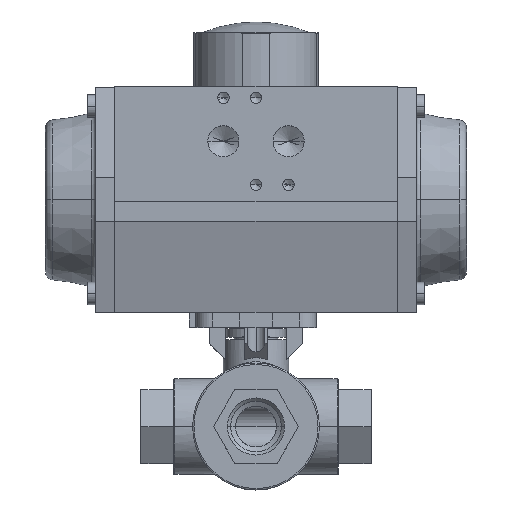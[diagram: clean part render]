
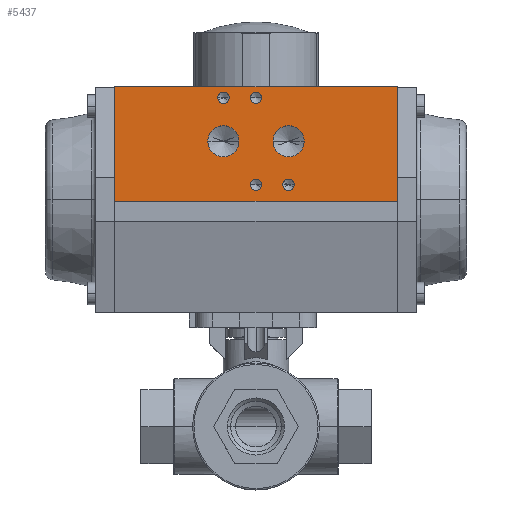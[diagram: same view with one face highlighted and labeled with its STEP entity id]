
A CAD part, top view. The second image highlights one B-rep face of the part: STEP entity #5437.
In plain terms, the highlighted planar face has unit normal (0, 0, 1) as drawn and (1, 0, 0) by its records, which use the part's own axes.
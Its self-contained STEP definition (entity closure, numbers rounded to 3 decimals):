
#567 = ORIENTED_EDGE ( 'NONE', *, *, #2069, .T. ) ;
#587 = CARTESIAN_POINT ( 'NONE',  ( 42.5, 21.5, 12. ) ) ;
#598 = EDGE_CURVE ( 'NONE', #3490, #3945, #1772, .T. ) ;
#618 = EDGE_CURVE ( 'NONE', #13512, #9356, #8131, .T. ) ;
#771 = CARTESIAN_POINT ( 'NONE',  ( 42.5, 37.5, 9.9 ) ) ;
#838 = ORIENTED_EDGE ( 'NONE', *, *, #13604, .F. ) ;
#934 = DIRECTION ( 'NONE',  ( 0., 0., -1. ) ) ;
#1010 = AXIS2_PLACEMENT_3D ( 'NONE', #3222, #12086, #4509 ) ;
#1069 = ORIENTED_EDGE ( 'NONE', *, *, #598, .F. ) ;
#1156 = AXIS2_PLACEMENT_3D ( 'NONE', #8776, #1175, #10031 ) ;
#1175 = DIRECTION ( 'NONE',  ( 1., 0., 0. ) ) ;
#1201 = CARTESIAN_POINT ( 'NONE',  ( 42.5, 37.5, 14.1 ) ) ;
#1327 = FACE_BOUND ( 'NONE', #13155, .T. ) ;
#1736 = FACE_BOUND ( 'NONE', #3074, .T. ) ;
#1772 = CIRCLE ( 'NONE', #1010, 5.722 ) ;
#1784 = ORIENTED_EDGE ( 'NONE', *, *, #10386, .F. ) ;
#1878 = DIRECTION ( 'NONE',  ( 0., 0., -1. ) ) ;
#1944 = CARTESIAN_POINT ( 'NONE',  ( 42.5, -0.5, 52. ) ) ;
#2043 = DIRECTION ( 'NONE',  ( 1., 0., 0. ) ) ;
#2056 = CIRCLE ( 'NONE', #8837, 2.1 ) ;
#2069 = EDGE_CURVE ( 'NONE', #12905, #4203, #15593, .T. ) ;
#2126 = CARTESIAN_POINT ( 'NONE',  ( 42.5, -0.5, -52. ) ) ;
#2270 = CARTESIAN_POINT ( 'NONE',  ( 42.5, 21.5, -12. ) ) ;
#2389 = ORIENTED_EDGE ( 'NONE', *, *, #5616, .F. ) ;
#2511 = CARTESIAN_POINT ( 'NONE',  ( 42.5, -0.5, -52. ) ) ;
#2609 = CIRCLE ( 'NONE', #14468, 2.1 ) ;
#2742 = AXIS2_PLACEMENT_3D ( 'NONE', #10847, #3274, #12132 ) ;
#2761 = VERTEX_POINT ( 'NONE', #1201 ) ;
#3031 = EDGE_CURVE ( 'NONE', #9356, #13512, #2056, .T. ) ;
#3074 = EDGE_LOOP ( 'NONE', ( #838, #3176 ) ) ;
#3124 = DIRECTION ( 'NONE',  ( 0., 0., 1. ) ) ;
#3176 = ORIENTED_EDGE ( 'NONE', *, *, #7669, .F. ) ;
#3222 = CARTESIAN_POINT ( 'NONE',  ( 42.5, 21.5, -12. ) ) ;
#3274 = DIRECTION ( 'NONE',  ( 1., 0., 0. ) ) ;
#3288 = ORIENTED_EDGE ( 'NONE', *, *, #10850, .F. ) ;
#3405 = DIRECTION ( 'NONE',  ( 1., 0., 0. ) ) ;
#3407 = CARTESIAN_POINT ( 'NONE',  ( 42.5, 21.5, -17.722 ) ) ;
#3490 = VERTEX_POINT ( 'NONE', #6695 ) ;
#3559 = DIRECTION ( 'NONE',  ( 0., 0., -1. ) ) ;
#3793 = DIRECTION ( 'NONE',  ( 0., 1., 0. ) ) ;
#3945 = VERTEX_POINT ( 'NONE', #3407 ) ;
#4039 = CARTESIAN_POINT ( 'NONE',  ( 42.5, 41.5, -52. ) ) ;
#4203 = VERTEX_POINT ( 'NONE', #4039 ) ;
#4275 = ORIENTED_EDGE ( 'NONE', *, *, #3031, .F. ) ;
#4464 = EDGE_LOOP ( 'NONE', ( #8869, #13303 ) ) ;
#4497 = ORIENTED_EDGE ( 'NONE', *, *, #12656, .F. ) ;
#4509 = DIRECTION ( 'NONE',  ( 0., 0., -1. ) ) ;
#4631 = DIRECTION ( 'NONE',  ( 1., 0., 0. ) ) ;
#4659 = DIRECTION ( 'NONE',  ( 1., 0., 0. ) ) ;
#4714 = DIRECTION ( 'NONE',  ( 1., 0., 0. ) ) ;
#4735 = FACE_BOUND ( 'NONE', #5527, .T. ) ;
#5077 = CARTESIAN_POINT ( 'NONE',  ( 42.5, 37.5, -2.1 ) ) ;
#5091 = ORIENTED_EDGE ( 'NONE', *, *, #8230, .F. ) ;
#5134 = CIRCLE ( 'NONE', #5550, 2.1 ) ;
#5138 = CARTESIAN_POINT ( 'NONE',  ( 42.5, 21.5, 6.277 ) ) ;
#5321 = CIRCLE ( 'NONE', #1156, 2.1 ) ;
#5323 = CARTESIAN_POINT ( 'NONE',  ( 42.5, 37.5, 0. ) ) ;
#5434 = EDGE_CURVE ( 'NONE', #6097, #2761, #5134, .T. ) ;
#5437 = ADVANCED_FACE ( 'NONE', ( #14815, #8090, #16405, #1736, #4735, #1327, #14412 ), #16035, .T. ) ;
#5469 = CARTESIAN_POINT ( 'NONE',  ( 42.5, -0.5, -52. ) ) ;
#5527 = EDGE_LOOP ( 'NONE', ( #4497, #1069 ) ) ;
#5529 = AXIS2_PLACEMENT_3D ( 'NONE', #587, #9476, #1878 ) ;
#5550 = AXIS2_PLACEMENT_3D ( 'NONE', #10976, #3405, #12270 ) ;
#5562 = EDGE_LOOP ( 'NONE', ( #13742, #4275 ) ) ;
#5603 = EDGE_CURVE ( 'NONE', #2761, #6097, #5321, .T. ) ;
#5616 = EDGE_CURVE ( 'NONE', #12905, #8085, #6683, .T. ) ;
#5819 = CIRCLE ( 'NONE', #12616, 5.722 ) ;
#5917 = VERTEX_POINT ( 'NONE', #10649 ) ;
#6003 = EDGE_CURVE ( 'NONE', #6451, #12774, #15172, .T. ) ;
#6097 = VERTEX_POINT ( 'NONE', #771 ) ;
#6113 = ORIENTED_EDGE ( 'NONE', *, *, #8161, .T. ) ;
#6451 = VERTEX_POINT ( 'NONE', #11586 ) ;
#6575 = DIRECTION ( 'NONE',  ( 0., 0., -1. ) ) ;
#6683 = LINE ( 'NONE', #2511, #16390 ) ;
#6695 = CARTESIAN_POINT ( 'NONE',  ( 42.5, 21.5, -6.277 ) ) ;
#6705 = CARTESIAN_POINT ( 'NONE',  ( 42.5, 5.5, -14.1 ) ) ;
#7660 = CIRCLE ( 'NONE', #5529, 5.722 ) ;
#7669 = EDGE_CURVE ( 'NONE', #5917, #10505, #2609, .T. ) ;
#8072 = AXIS2_PLACEMENT_3D ( 'NONE', #2126, #4714, #13539 ) ;
#8085 = VERTEX_POINT ( 'NONE', #9273 ) ;
#8090 = FACE_BOUND ( 'NONE', #12329, .T. ) ;
#8095 = VERTEX_POINT ( 'NONE', #15646 ) ;
#8131 = CIRCLE ( 'NONE', #2742, 2.1 ) ;
#8161 = EDGE_CURVE ( 'NONE', #4203, #16316, #12700, .T. ) ;
#8230 = EDGE_CURVE ( 'NONE', #8085, #16316, #15267, .T. ) ;
#8565 = DIRECTION ( 'NONE',  ( 1., 0., 0. ) ) ;
#8671 = AXIS2_PLACEMENT_3D ( 'NONE', #16132, #8565, #934 ) ;
#8704 = EDGE_CURVE ( 'NONE', #8095, #13340, #9890, .T. ) ;
#8776 = CARTESIAN_POINT ( 'NONE',  ( 42.5, 37.5, 12. ) ) ;
#8837 = AXIS2_PLACEMENT_3D ( 'NONE', #15691, #15672, #15655 ) ;
#8869 = ORIENTED_EDGE ( 'NONE', *, *, #5434, .F. ) ;
#9273 = CARTESIAN_POINT ( 'NONE',  ( 42.5, -0.5, 52. ) ) ;
#9332 = VECTOR ( 'NONE', #3124, 1000. ) ;
#9356 = VERTEX_POINT ( 'NONE', #12757 ) ;
#9476 = DIRECTION ( 'NONE',  ( 1., 0., 0. ) ) ;
#9633 = CARTESIAN_POINT ( 'NONE',  ( 42.5, 5.5, -12. ) ) ;
#9890 = CIRCLE ( 'NONE', #11502, 2.1 ) ;
#10031 = DIRECTION ( 'NONE',  ( 0., 0., -1. ) ) ;
#10180 = AXIS2_PLACEMENT_3D ( 'NONE', #12197, #4631, #13466 ) ;
#10386 = EDGE_CURVE ( 'NONE', #13340, #8095, #14018, .T. ) ;
#10505 = VERTEX_POINT ( 'NONE', #5077 ) ;
#10649 = CARTESIAN_POINT ( 'NONE',  ( 42.5, 37.5, 2.1 ) ) ;
#10699 = CARTESIAN_POINT ( 'NONE',  ( 42.5, 41.5, -52. ) ) ;
#10847 = CARTESIAN_POINT ( 'NONE',  ( 42.5, 5.5, 0. ) ) ;
#10850 = EDGE_CURVE ( 'NONE', #12774, #6451, #7660, .T. ) ;
#10898 = DIRECTION ( 'NONE',  ( 0., 0., -1. ) ) ;
#10976 = CARTESIAN_POINT ( 'NONE',  ( 42.5, 37.5, 12. ) ) ;
#11127 = DIRECTION ( 'NONE',  ( 1., 0., 0. ) ) ;
#11360 = CARTESIAN_POINT ( 'NONE',  ( 42.5, -0.5, -52. ) ) ;
#11372 = DIRECTION ( 'NONE',  ( 0., 0., 1. ) ) ;
#11502 = AXIS2_PLACEMENT_3D ( 'NONE', #9633, #2043, #10898 ) ;
#11586 = CARTESIAN_POINT ( 'NONE',  ( 42.5, 21.5, 17.722 ) ) ;
#12068 = CARTESIAN_POINT ( 'NONE',  ( 42.5, 5.5, -2.1 ) ) ;
#12086 = DIRECTION ( 'NONE',  ( 1., 0., 0. ) ) ;
#12092 = DIRECTION ( 'NONE',  ( 0., 1., 0. ) ) ;
#12132 = DIRECTION ( 'NONE',  ( 0., 0., -1. ) ) ;
#12197 = CARTESIAN_POINT ( 'NONE',  ( 42.5, 21.5, 12. ) ) ;
#12227 = CARTESIAN_POINT ( 'NONE',  ( 42.5, 37.5, 0. ) ) ;
#12270 = DIRECTION ( 'NONE',  ( 0., 0., -1. ) ) ;
#12309 = VECTOR ( 'NONE', #12092, 1000. ) ;
#12329 = EDGE_LOOP ( 'NONE', ( #1784, #13481 ) ) ;
#12616 = AXIS2_PLACEMENT_3D ( 'NONE', #2270, #11127, #3559 ) ;
#12656 = EDGE_CURVE ( 'NONE', #3945, #3490, #5819, .T. ) ;
#12700 = LINE ( 'NONE', #10699, #9332 ) ;
#12757 = CARTESIAN_POINT ( 'NONE',  ( 42.5, 5.5, 2.1 ) ) ;
#12774 = VERTEX_POINT ( 'NONE', #5138 ) ;
#12905 = VERTEX_POINT ( 'NONE', #5469 ) ;
#13155 = EDGE_LOOP ( 'NONE', ( #3288, #14637 ) ) ;
#13303 = ORIENTED_EDGE ( 'NONE', *, *, #5603, .F. ) ;
#13340 = VERTEX_POINT ( 'NONE', #6705 ) ;
#13466 = DIRECTION ( 'NONE',  ( 0., 0., -1. ) ) ;
#13481 = ORIENTED_EDGE ( 'NONE', *, *, #8704, .F. ) ;
#13494 = DIRECTION ( 'NONE',  ( 0., 0., -1. ) ) ;
#13512 = VERTEX_POINT ( 'NONE', #12068 ) ;
#13539 = DIRECTION ( 'NONE',  ( 0., 1., 0. ) ) ;
#13587 = AXIS2_PLACEMENT_3D ( 'NONE', #12227, #4659, #13494 ) ;
#13604 = EDGE_CURVE ( 'NONE', #10505, #5917, #14081, .T. ) ;
#13742 = ORIENTED_EDGE ( 'NONE', *, *, #618, .F. ) ;
#14018 = CIRCLE ( 'NONE', #8671, 2.1 ) ;
#14081 = CIRCLE ( 'NONE', #13587, 2.1 ) ;
#14155 = DIRECTION ( 'NONE',  ( 1., 0., 0. ) ) ;
#14181 = CARTESIAN_POINT ( 'NONE',  ( 42.5, 41.5, 52. ) ) ;
#14412 = FACE_OUTER_BOUND ( 'NONE', #15334, .T. ) ;
#14468 = AXIS2_PLACEMENT_3D ( 'NONE', #5323, #14155, #6575 ) ;
#14637 = ORIENTED_EDGE ( 'NONE', *, *, #6003, .F. ) ;
#14815 = FACE_BOUND ( 'NONE', #4464, .T. ) ;
#15172 = CIRCLE ( 'NONE', #10180, 5.722 ) ;
#15267 = LINE ( 'NONE', #1944, #12309 ) ;
#15334 = EDGE_LOOP ( 'NONE', ( #6113, #5091, #2389, #567 ) ) ;
#15593 = LINE ( 'NONE', #11360, #15984 ) ;
#15646 = CARTESIAN_POINT ( 'NONE',  ( 42.5, 5.5, -9.9 ) ) ;
#15655 = DIRECTION ( 'NONE',  ( 0., 0., -1. ) ) ;
#15672 = DIRECTION ( 'NONE',  ( 1., 0., 0. ) ) ;
#15691 = CARTESIAN_POINT ( 'NONE',  ( 42.5, 5.5, 0. ) ) ;
#15984 = VECTOR ( 'NONE', #3793, 1000. ) ;
#16035 = PLANE ( 'NONE',  #8072 ) ;
#16132 = CARTESIAN_POINT ( 'NONE',  ( 42.5, 5.5, -12. ) ) ;
#16316 = VERTEX_POINT ( 'NONE', #14181 ) ;
#16390 = VECTOR ( 'NONE', #11372, 1000. ) ;
#16405 = FACE_BOUND ( 'NONE', #5562, .T. ) ;
